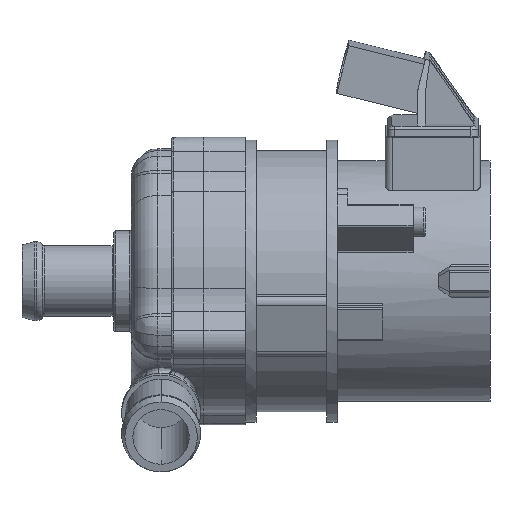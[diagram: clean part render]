
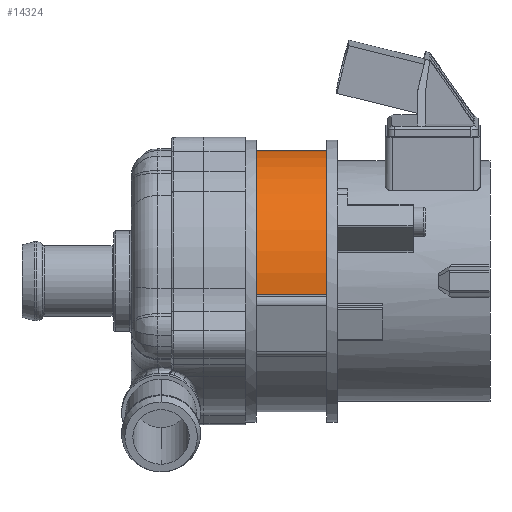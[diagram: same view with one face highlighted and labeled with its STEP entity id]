
A CAD part, left-side view. The second image highlights one B-rep face of the part: STEP entity #14324.
In plain terms, the highlighted cylindrical face has radius 37 mm (diameter 74 mm), a partial arc.
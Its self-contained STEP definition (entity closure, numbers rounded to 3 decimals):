
#185 = CARTESIAN_POINT ( 'NONE',  ( -36.803, 46.3, -3.817 ) ) ;
#312 = EDGE_CURVE ( 'NONE', #4624, #1174, #2117, .T. ) ;
#1174 = VERTEX_POINT ( 'NONE', #9017 ) ;
#1416 = ORIENTED_EDGE ( 'NONE', *, *, #6863, .F. ) ;
#1468 = AXIS2_PLACEMENT_3D ( 'NONE', #4859, #17168, #15846 ) ;
#2117 = LINE ( 'NONE', #2317, #10851 ) ;
#2254 = CARTESIAN_POINT ( 'NONE',  ( 0., 66.3, 37. ) ) ;
#2317 = CARTESIAN_POINT ( 'NONE',  ( 0., 66.3, 37. ) ) ;
#3209 = VERTEX_POINT ( 'NONE', #185 ) ;
#3640 = DIRECTION ( 'NONE',  ( 0., 0., 1. ) ) ;
#3970 = DIRECTION ( 'NONE',  ( 0., 0., -1. ) ) ;
#4624 = VERTEX_POINT ( 'NONE', #2254 ) ;
#4859 = CARTESIAN_POINT ( 'NONE',  ( 0., 66.3, 0. ) ) ;
#5666 = ORIENTED_EDGE ( 'NONE', *, *, #17486, .F. ) ;
#6833 = EDGE_CURVE ( 'NONE', #3209, #1174, #18630, .T. ) ;
#6863 = EDGE_CURVE ( 'NONE', #3209, #13068, #19653, .T. ) ;
#7458 = CARTESIAN_POINT ( 'NONE',  ( -36.803, 66.3, -3.817 ) ) ;
#7713 = ORIENTED_EDGE ( 'NONE', *, *, #6833, .T. ) ;
#8968 = DIRECTION ( 'NONE',  ( 0., 1., 0. ) ) ;
#9017 = CARTESIAN_POINT ( 'NONE',  ( 0., 46.3, 37. ) ) ;
#9988 = DIRECTION ( 'NONE',  ( 0., -1., 0. ) ) ;
#10851 = VECTOR ( 'NONE', #9988, 1000. ) ;
#13068 = VERTEX_POINT ( 'NONE', #18482 ) ;
#14091 = VECTOR ( 'NONE', #8968, 1000. ) ;
#14324 = ADVANCED_FACE ( 'NONE', ( #16286 ), #19219, .T. ) ;
#14732 = AXIS2_PLACEMENT_3D ( 'NONE', #17760, #15927, #3640 ) ;
#15846 = DIRECTION ( 'NONE',  ( 0., 0., 1. ) ) ;
#15927 = DIRECTION ( 'NONE',  ( 0., 1., 0. ) ) ;
#16286 = FACE_OUTER_BOUND ( 'NONE', #18100, .T. ) ;
#16759 = ORIENTED_EDGE ( 'NONE', *, *, #312, .F. ) ;
#17168 = DIRECTION ( 'NONE',  ( 0., 1., 0. ) ) ;
#17486 = EDGE_CURVE ( 'NONE', #13068, #4624, #18214, .T. ) ;
#17760 = CARTESIAN_POINT ( 'NONE',  ( 0., 46.3, 0. ) ) ;
#17801 = CARTESIAN_POINT ( 'NONE',  ( 0., 66.3, 0. ) ) ;
#18100 = EDGE_LOOP ( 'NONE', ( #16759, #5666, #1416, #7713 ) ) ;
#18174 = AXIS2_PLACEMENT_3D ( 'NONE', #17801, #18751, #3970 ) ;
#18214 = CIRCLE ( 'NONE', #1468, 37. ) ;
#18482 = CARTESIAN_POINT ( 'NONE',  ( -36.803, 66.3, -3.817 ) ) ;
#18630 = CIRCLE ( 'NONE', #14732, 37. ) ;
#18751 = DIRECTION ( 'NONE',  ( 0., -1., 0. ) ) ;
#19219 = CYLINDRICAL_SURFACE ( 'NONE', #18174, 37. ) ;
#19653 = LINE ( 'NONE', #7458, #14091 ) ;
